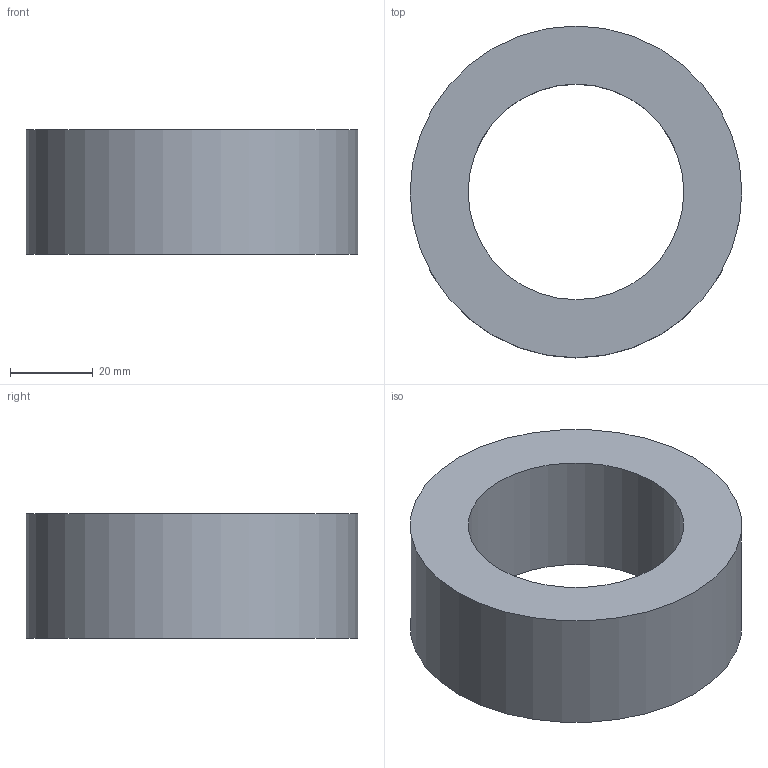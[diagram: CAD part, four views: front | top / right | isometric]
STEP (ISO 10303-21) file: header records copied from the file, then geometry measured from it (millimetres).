
FILE_DESCRIPTION(('Open CASCADE Model'),'2;1');
FILE_NAME('Open CASCADE Shape Model','2026-02-11T21:32:42',('Author'),( 'Open CASCADE'),'Open CASCADE STEP processor 7.8','Open CASCADE 7.8' ,'Unknown');
FILE_SCHEMA(('AUTOMOTIVE_DESIGN { 1 0 10303 214 1 1 1 1 }'));
Length unit declared in the file: millimetre
Products named in the file (1): Open CASCADE STEP translator 7.8 5
Bounding box: 80 x 80 x 30 mm (x, y, z)
Volume: 87084.9 mm3; surface area: 18246.4 mm2
Topology: 1 solids, 1 shells, 4 faces, 6 edges, 4 vertices
Faces by surface type: cylinder 2, plane 2
Full cylindrical faces by diameter (mm): 52 x1, 80 x1
Entity records: 186 total; most frequent: DIRECTION 32, CARTESIAN_POINT 27, ORIENTED_EDGE 12, PCURVE 12, DEFINITIONAL_REPRESENTATION 12, LINE 10, VECTOR 10, AXIS2_PLACEMENT_3D 9
